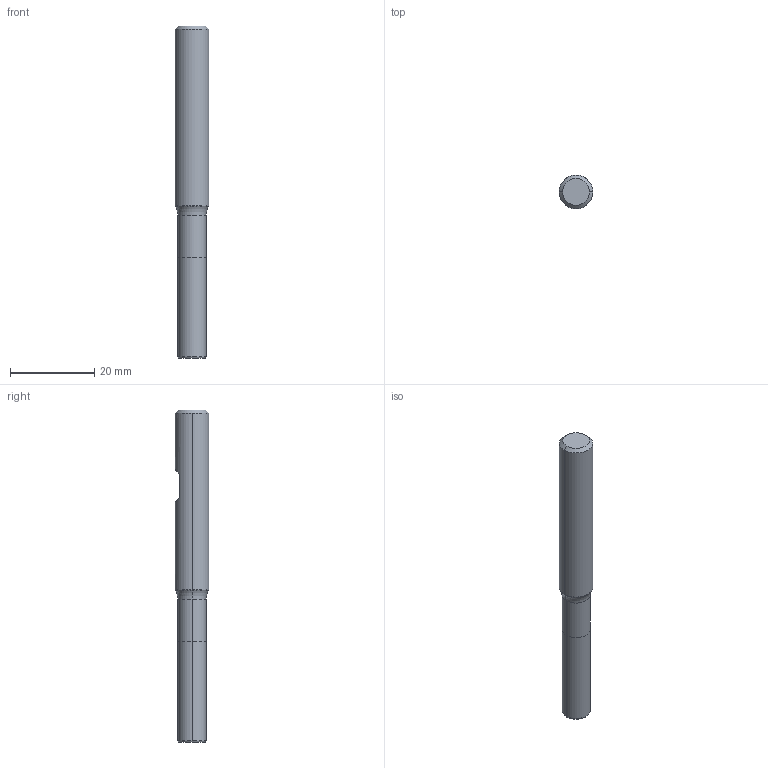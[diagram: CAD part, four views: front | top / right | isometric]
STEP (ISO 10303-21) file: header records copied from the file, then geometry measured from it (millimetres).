
FILE_DESCRIPTION (( 'STEP AP214' ), '1' );
FILE_NAME ('817.067.10_3D-model.step', '2022-02-23T23:29:51', ( '' ), ( '' ), 'SwSTEP 2.0', 'SolidWorks 2020', '' );
FILE_SCHEMA (( 'AUTOMOTIVE_DESIGN' ));
Length unit declared in the file: millimetre
Products named in the file (3): 817.067.10_3D-model; NOCUT-3D^Baugr77; CUT-3D^Baugr77
Assembly tree (2 placements, depth 2):
  817.067.10_3D-model
    CUT-3D^Baugr77
    NOCUT-3D^Baugr77
Bounding box: 8 x 8 x 79 mm (x, y, z)
Volume: 3403.2 mm3; surface area: 1983.6 mm2
Topology: 2 solids, 2 shells, 21 faces, 38 edges, 22 vertices
Faces by surface type: plane 7, cylinder 6, cone 6, torus 2
Entity records: 634 total; most frequent: DIRECTION 114, CARTESIAN_POINT 95, ORIENTED_EDGE 76, AXIS2_PLACEMENT_3D 49, EDGE_CURVE 38, VERTEX_POINT 22, EDGE_LOOP 22, FACE_OUTER_BOUND 21
